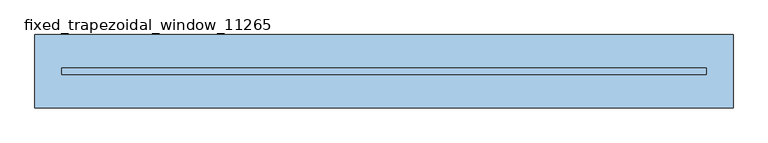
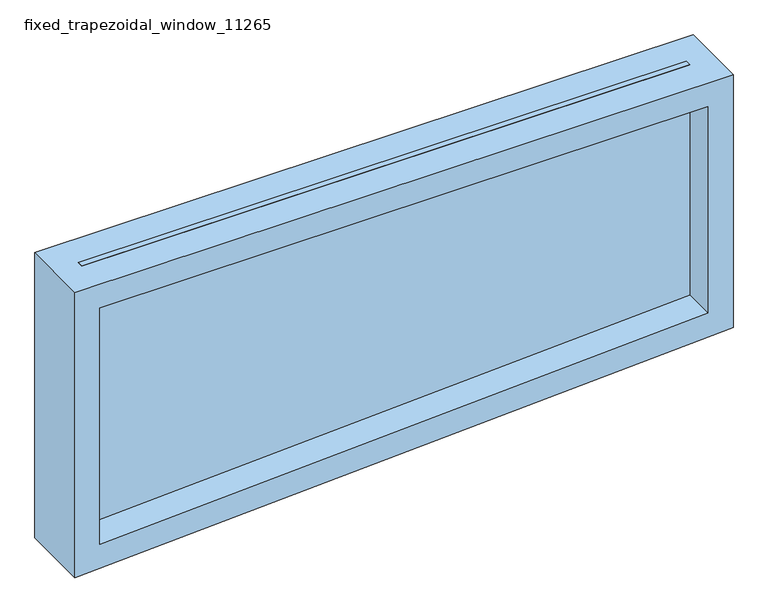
"""IFC4 building model written with IfcOpenShell, lengths in millimetres: window geometry, fixed_trapezoidal_window_11265 : Menuiserie 10.2."""

import ifcopenshell
import ifcopenshell.guid

model = None  # the IFC model being written
_history = None  # IfcOwnerHistory: only IFC2X3 demands one
_inside = {}  # id of a spatial element -> (the spatial element, [elements in it])
_under = {}  # id of a project, library or spatial element -> (it, [spatial elements below it])
_declared = {}  # id of a project -> (the project, [libraries it declares])
_typed = {}  # id of a type object -> (the type object, [elements of that type])
_made_of = {}  # id of a material, layer set ... -> (it, [elements and type objects made of it])


def new_model(schema):
    """Start an empty IFC model of exactly this schema.

    Asked for "IFC4X3", IfcOpenShell would pick the latest addendum, in which some entities
    have other attributes; the version numbers below select the first issue.
    IFC2X3 requires an IfcOwnerHistory on every rooted entity: one is made here for all.
    """
    global model, _history
    if schema == "IFC4X3":
        model = ifcopenshell.file(schema_version=(4, 3, 0, 0))
    else:
        model = ifcopenshell.file(schema=schema)
    _inside.clear()
    _under.clear()
    _declared.clear()
    _typed.clear()
    _made_of.clear()
    _history = None
    if model.schema == "IFC2X3":
        org = make("IfcOrganization", Name="unknown")
        user = make(
            "IfcPersonAndOrganization",
            ThePerson=make("IfcPerson", FamilyName="unknown"),
            TheOrganization=org,
        )
        app = make(
            "IfcApplication",
            ApplicationDeveloper=org,
            Version="unknown",
            ApplicationFullName="unknown",
            ApplicationIdentifier="unknown",
        )
        _history = make(
            "IfcOwnerHistory",
            OwningUser=user,
            OwningApplication=app,
            ChangeAction="ADDED",
            CreationDate=0,
        )
    return model


def make(cls, **values):
    """One entity of the class cls with the attributes given. An attribute that is None is left unset."""
    return model.create_entity(
        cls, **{name: value for name, value in values.items() if value is not None}
    )


def rooted(cls, **values):
    """An entity with a GlobalId (a new one), such as an element, a storey or a relation."""
    return make(cls, GlobalId=ifcopenshell.guid.new(), OwnerHistory=_history, **values)


def si_unit(unit_type, name, prefix=None):
    """IfcSIUnit, for example si_unit("LENGTHUNIT", "METRE", prefix="MILLI")."""
    return make("IfcSIUnit", UnitType=unit_type, Prefix=prefix, Name=name)


def assignment(units):
    """IfcUnitAssignment: the units of a project."""
    return None if units is None else make("IfcUnitAssignment", Units=units)


def point(xyz):
    """IfcCartesianPoint."""
    return None if xyz is None else make("IfcCartesianPoint", Coordinates=xyz)


def direction(xyz):
    """IfcDirection."""
    return None if xyz is None else make("IfcDirection", DirectionRatios=xyz)


def frame(location, z_axis=None, x_axis=None):
    """IfcAxis2Placement3D, a coordinate frame: its origin and axes. An axis left out is left unset."""
    return make(
        "IfcAxis2Placement3D",
        Location=point(location),
        Axis=direction(z_axis),
        RefDirection=direction(x_axis),
    )


def origin():
    """The frame at (0, 0, 0) with its axes left unset."""
    return frame((0.0, 0.0, 0.0))


def place(relative_to, where):
    """IfcLocalPlacement: puts the frame where relative to a parent placement (None: the world)."""
    return make(
        "IfcLocalPlacement", PlacementRelTo=relative_to, RelativePlacement=where
    )


def context(
    kind, dimensions, precision=None, world=None, true_north=None, identifier=None
):
    """IfcGeometricRepresentationContext, for example the 3D "Model" context."""
    return make(
        "IfcGeometricRepresentationContext",
        ContextIdentifier=identifier,
        ContextType=kind,
        CoordinateSpaceDimension=dimensions,
        Precision=precision,
        WorldCoordinateSystem=world,
        TrueNorth=true_north,
    )


def project(units=None, contexts=None):
    """IfcProject with its units and contexts."""
    return rooted(
        "IfcProject",
        Name="project",
        RepresentationContexts=contexts,
        UnitsInContext=assignment(units),
    )


def spatial(cls, under=None, at=None, **own):
    """A site, building, storey or space (cls), placed at a placement, below another one or the project."""
    s = rooted(cls, ObjectPlacement=at, **own)
    if under is not None:
        _under.setdefault(under.id(), (under, []))[1].append(s)
    return s


def polyline(points):
    """IfcPolyline through the points."""
    return make("IfcPolyline", Points=[point(p) for p in points])


def outline(outer, holes=None, kind="AREA"):
    """IfcArbitraryClosedProfileDef: a profile drawn as a closed curve; with holes, ...WithVoids."""
    if holes is None:
        return make("IfcArbitraryClosedProfileDef", ProfileType=kind, OuterCurve=outer)
    return make(
        "IfcArbitraryProfileDefWithVoids",
        ProfileType=kind,
        OuterCurve=outer,
        InnerCurves=holes,
    )


def extrude(swept, where, along, depth):
    """IfcExtrudedAreaSolid: the profile swept, set in the frame where, extruded along a direction by depth."""
    return make(
        "IfcExtrudedAreaSolid",
        SweptArea=swept,
        Position=where,
        ExtrudedDirection=direction(along),
        Depth=depth,
    )


def shape(context_of_items, identifier, shape_type, items):
    """IfcShapeRepresentation: the items that make up one representation, for example the "Body"."""
    return make(
        "IfcShapeRepresentation",
        ContextOfItems=context_of_items,
        RepresentationIdentifier=identifier,
        RepresentationType=shape_type,
        Items=items,
    )


def source(mapping_origin, context_of_items, identifier, shape_type, items):
    """IfcRepresentationMap: a shape defined once, which mapped items show again and again."""
    return make(
        "IfcRepresentationMap",
        MappingOrigin=mapping_origin,
        MappedRepresentation=shape(context_of_items, identifier, shape_type, items),
    )


def transform(
    local_origin,
    x_axis=None,
    y_axis=None,
    z_axis=None,
    scale=None,
    scale2=None,
    scale3=None,
    uniform=True,
):
    """IfcCartesianTransformationOperator3D, or its non-uniform kind. x_axis, y_axis, z_axis: its Axis1, 2, 3."""
    if uniform:
        return make(
            "IfcCartesianTransformationOperator3D",
            Axis1=direction(x_axis),
            Axis2=direction(y_axis),
            LocalOrigin=point(local_origin),
            Scale=scale,
            Axis3=direction(z_axis),
        )
    return make(
        "IfcCartesianTransformationOperator3DnonUniform",
        Axis1=direction(x_axis),
        Axis2=direction(y_axis),
        LocalOrigin=point(local_origin),
        Scale=scale,
        Axis3=direction(z_axis),
        Scale2=scale2,
        Scale3=scale3,
    )


def mapped(mapping_source, mapping_target):
    """IfcMappedItem: shows the shape of a source again, moved by a transform."""
    return make(
        "IfcMappedItem", MappingSource=mapping_source, MappingTarget=mapping_target
    )


def made_of(thing, what):
    """Note that an element or type object is made of a material, layer set ...; save() writes the relation."""
    if what is not None:
        _made_of.setdefault(what.id(), (what, []))[1].append(thing)
    return thing


def element(
    cls,
    number,
    at=None,
    inside=None,
    cuts=None,
    type_object=None,
    material=None,
    context=None,
    identifier="Body",
    shape_type=None,
    held_by="IfcProductDefinitionShape",
    body=None,
    shapes=None,
    **own,
):
    """One element of the class cls, such as IfcWall. Its Tag is "e" and its number.

    at: its placement. inside: the storey or other place that contains it. cuts: it is an
    opening in that element (IfcRelVoidsElement). A single representation is given by context,
    identifier, shape_type and body (its items); several are given by shapes. held_by: the class
    of the entity that holds the representations. save() writes the other relations.
    """
    e = rooted(cls, Tag="e%d" % number, ObjectPlacement=at, **own)
    if body is not None:
        shapes = [shape(context, identifier, shape_type, body)]
    if shapes is not None:
        e.Representation = make(held_by, Representations=shapes)
    if inside is not None:
        _inside.setdefault(inside.id(), (inside, []))[1].append(e)
    if cuts is not None:
        rooted(
            "IfcRelVoidsElement", RelatingBuildingElement=cuts, RelatedOpeningElement=e
        )
    if type_object is not None:
        _typed.setdefault(type_object.id(), (type_object, []))[1].append(e)
    return made_of(e, material)


def aggregate(whole, parts):
    """IfcRelAggregates: a whole, such as a stair, and the parts it consists of."""
    return rooted("IfcRelAggregates", RelatingObject=whole, RelatedObjects=parts)


def save(model, path):
    """Write the relations noted so far, then the file.

    IfcRelAggregates (storeys below a building ...), IfcRelContainedInSpatialStructure (elements
    in a storey), IfcRelDefinesByType, IfcRelAssociatesMaterial and IfcRelDeclares: one each for
    every whole, place, type object, material and project.
    """
    for whole, parts in _under.values():
        aggregate(whole, parts)
    for where, things in _inside.values():
        rooted(
            "IfcRelContainedInSpatialStructure",
            RelatedElements=things,
            RelatingStructure=where,
        )
    for kind, things in _typed.values():
        rooted("IfcRelDefinesByType", RelatedObjects=things, RelatingType=kind)
    for what, things in _made_of.values():
        rooted("IfcRelAssociatesMaterial", RelatedObjects=things, RelatingMaterial=what)
    for by, libraries in _declared.values():
        rooted("IfcRelDeclares", RelatingContext=by, RelatedDefinitions=libraries)
    model.write(path)


def fixed_trapezoidal_window_11265_f33cfe98(model_context):
    return source(origin(), model_context, "Body", "SweptSolid", [
        extrude(outline(polyline([(1829.2, -652.3), (1272.7320304, -652.3), (1337.1097464, 576.1), (1829.2, 576.1), (1829.2, -652.3)])), frame((0.0, -6.35, 0.0), z_axis=(0.0, 1.0, 0.0), x_axis=(0.0, 0.0, 1.0)), (0.0, 0.0, 1.0), 12.7),
        extrude(outline(polyline([(1829.2, 626.9), (1829.2, -703.1), (1219.2, -703.1), (1288.9023464, 626.9), (1829.2, 626.9)]), holes=[polyline([(1778.4, 576.1), (1337.1097464, 576.1), (1272.7320304, -652.3), (1778.4, -652.3), (1778.4, 576.1)])]), frame((0.0, -69.85, 0.0), z_axis=(0.0, 1.0, 0.0), x_axis=(0.0, 0.0, 1.0)), (0.0, 0.0, 1.0), 139.7),
    ])


if __name__ == "__main__":
    model = new_model("IFC4")
    model_context = context("Model", 3, world=origin())
    ifc_project = project(units=[si_unit("LENGTHUNIT", "METRE", prefix="MILLI")], contexts=[model_context])
    site = spatial("IfcSite", under=ifc_project)
    building = spatial("IfcBuilding", under=site)
    placement = place(None, origin())
    fixed_trapezoidal_window_11265_shape = fixed_trapezoidal_window_11265_f33cfe98(model_context)
    element("IfcWindow", 1, ObjectType="fixed_trapezoidal_window_11265 : Menuiserie 10.2", at=placement, inside=building, context=model_context, shape_type="MappedRepresentation", body=[
        mapped(fixed_trapezoidal_window_11265_shape, transform((0.0, 0.0, 0.0), x_axis=(1.0, 0.0, 0.0), y_axis=(0.0, 1.0, 0.0), z_axis=(0.0, 0.0, 1.0))),
    ])
    save(model, "model.ifc")
